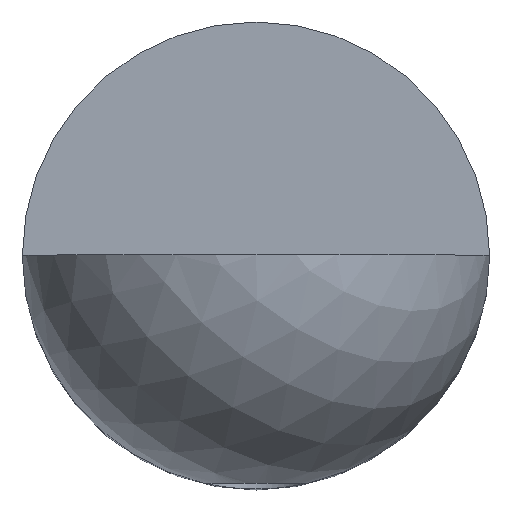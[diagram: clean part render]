
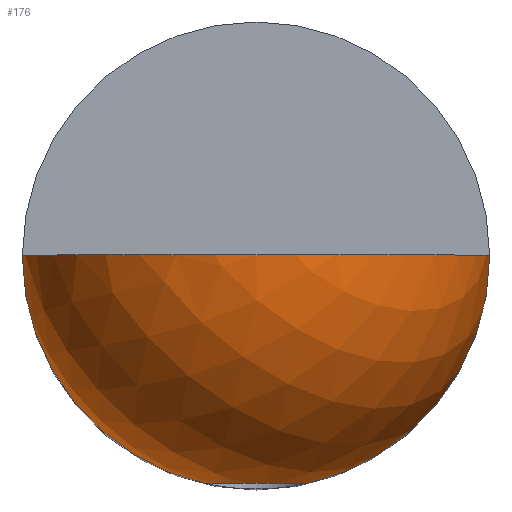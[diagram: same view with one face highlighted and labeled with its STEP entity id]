
A CAD part, top view. The second image highlights one B-rep face of the part: STEP entity #176.
In plain terms, the highlighted spherical face has radius 32.25 mm.
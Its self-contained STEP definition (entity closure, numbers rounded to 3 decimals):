
#18=SPHERICAL_SURFACE('',#221,32.25);
#52=FACE_OUTER_BOUND('',#65,.T.);
#65=EDGE_LOOP('',(#150,#151,#152,#153));
#76=CIRCLE('',#211,32.25);
#78=CIRCLE('',#213,32.25);
#80=CIRCLE('',#217,7.);
#83=CIRCLE('',#222,32.25);
#90=VERTEX_POINT('',#300);
#91=VERTEX_POINT('',#311);
#94=VERTEX_POINT('',#318);
#95=VERTEX_POINT('',#320);
#106=EDGE_CURVE('',#91,#90,#76,.T.);
#111=EDGE_CURVE('',#95,#94,#78,.T.);
#114=EDGE_CURVE('',#90,#95,#80,.T.);
#118=EDGE_CURVE('',#91,#94,#83,.T.);
#150=ORIENTED_EDGE('',*,*,#114,.T.);
#151=ORIENTED_EDGE('',*,*,#111,.T.);
#152=ORIENTED_EDGE('',*,*,#118,.F.);
#153=ORIENTED_EDGE('',*,*,#106,.T.);
#176=ADVANCED_FACE('',(#52),#18,.T.);
#211=AXIS2_PLACEMENT_3D('',#312,#244,#245);
#213=AXIS2_PLACEMENT_3D('',#321,#251,#252);
#217=AXIS2_PLACEMENT_3D('',#336,#259,#260);
#221=AXIS2_PLACEMENT_3D('',#343,#268,#269);
#222=AXIS2_PLACEMENT_3D('',#344,#270,#271);
#244=DIRECTION('center_axis',(0.,0.,1.));
#245=DIRECTION('ref_axis',(1.,0.,0.));
#251=DIRECTION('center_axis',(0.,0.,1.));
#252=DIRECTION('ref_axis',(1.,0.,0.));
#259=DIRECTION('center_axis',(0.,1.,0.));
#260=DIRECTION('ref_axis',(1.,0.,0.));
#268=DIRECTION('center_axis',(0.577,0.577,0.577));
#269=DIRECTION('ref_axis',(-0.707,0.,0.707));
#270=DIRECTION('center_axis',(0.,1.,0.));
#271=DIRECTION('ref_axis',(0.,0.,-1.));
#300=CARTESIAN_POINT('',(-7.,-31.481,30.25));
#311=CARTESIAN_POINT('',(-32.25,0.,30.25));
#312=CARTESIAN_POINT('Origin',(0.,0.,30.25));
#318=CARTESIAN_POINT('',(32.25,0.,30.25));
#320=CARTESIAN_POINT('',(7.,-31.481,30.25));
#321=CARTESIAN_POINT('Origin',(0.,0.,30.25));
#336=CARTESIAN_POINT('Origin',(0.,-31.481,30.25));
#343=CARTESIAN_POINT('Origin',(0.,0.,30.25));
#344=CARTESIAN_POINT('Origin',(0.,0.,30.25));
